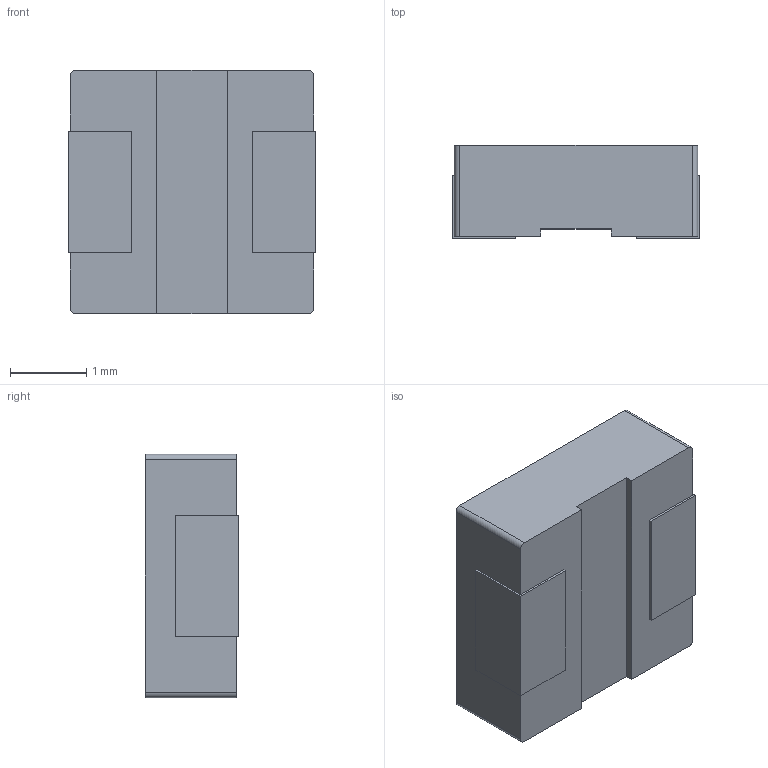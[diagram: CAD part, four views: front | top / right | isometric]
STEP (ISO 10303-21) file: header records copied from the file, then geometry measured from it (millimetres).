
FILE_DESCRIPTION (( 'STEP AP203' ), '1' );
FILE_NAME ('0312.STEP', '2025-07-17T04:36:27', ( 'user' ), ( '' ), 'SwSTEP 2.0', 'SolidWorks 2018', '' );
FILE_SCHEMA (( 'CONFIG_CONTROL_DESIGN' ));
Length unit declared in the file: millimetre
Products named in the file (1): 0312
Bounding box: 3.26 x 1.23 x 3.2 mm (x, y, z)
Volume: 12.1 mm3; surface area: 36.7 mm2
Topology: 1 solids, 1 shells, 26 faces, 72 edges, 48 vertices
Faces by surface type: plane 22, cylinder 4
Entity records: 901 total; most frequent: CARTESIAN_POINT 147, ORIENTED_EDGE 144, DIRECTION 134, EDGE_CURVE 72, VECTOR 64, LINE 64, VERTEX_POINT 48, AXIS2_PLACEMENT_3D 35
